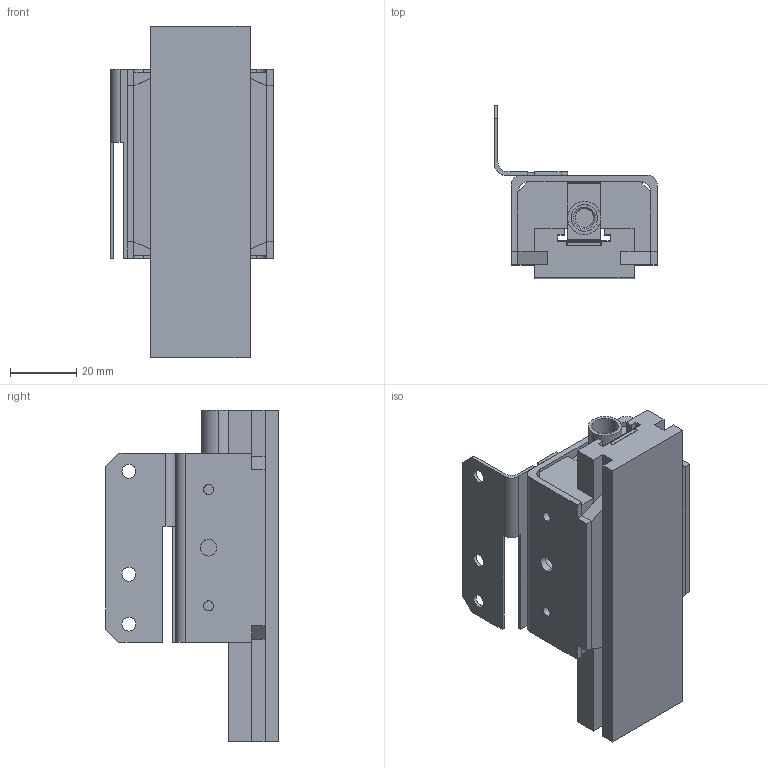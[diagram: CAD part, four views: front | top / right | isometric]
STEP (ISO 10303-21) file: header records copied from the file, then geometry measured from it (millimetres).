
FILE_DESCRIPTION (( 'STEP AP203' ), '1' );
FILE_NAME ('Sestava TMLS-05G-02 + APG.STEP', '2012-06-21T08:47:16', ( 'Uživatel' ), ( '' ), 'SwSTEP 2.0', 'SolidWorks 2010', '' );
FILE_SCHEMA (( 'CONFIG_CONTROL_DESIGN' ));
Length unit declared in the file: millimetre
Products named in the file (9): mag. páska; nerez. páska; vedení snímaèe 1; Sestava TMLS-05G-02 + APG; al. profil; snímaè 1mm; al. kryt; dìtský zub; držák vedeného snímaèe2
Assembly tree (9 placements, depth 2):
  Sestava TMLS-05G-02 + APG
    dìtský zub
    mag. páska
    držák vedeného snímaèe2
    snímaè 1mm
    al. profil
    al. kryt
    nerez. páska
    vedení snímaèe 1  x2
Bounding box: 49 x 52 x 100.02 mm (x, y, z)
Volume: 85533.6 mm3; surface area: 50577 mm2
Topology: 9 solids, 9 shells, 211 faces, 574 edges, 380 vertices
Faces by surface type: plane 123, cylinder 86, cone 2
Entity records: 6631 total; most frequent: CARTESIAN_POINT 1025, DIRECTION 974, ORIENTED_EDGE 948, EDGE_CURVE 474, AXIS2_PLACEMENT_3D 327, LINE 320, VECTOR 320, VERTEX_POINT 314
